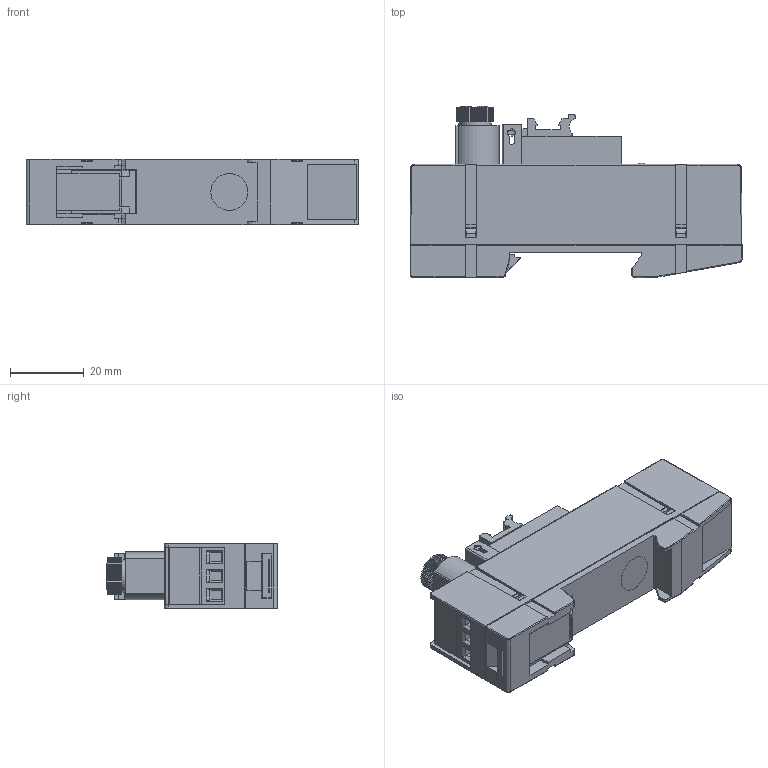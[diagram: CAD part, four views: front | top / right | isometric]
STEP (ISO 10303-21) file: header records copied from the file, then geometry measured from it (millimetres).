
FILE_DESCRIPTION(/* description */ (''),/* implementation_level */ '2;1');
FILE_NAME(/* name */ 'Multi_IO_Extension_Shutter_592.stp',/* time_stamp */ '2025-10-02T15:00:20+02:00',/* author */ (''),/* organization */ (''),/* preprocessor_version */ 'ST-DEVELOPER v17.2',/* originating_system */ 'Autodesk Inventor 2019',/* authorisation */ '');
FILE_SCHEMA (('AUTOMOTIVE_DESIGN { 1 0 10303 214 3 1 1 }'));
Length unit declared in the file: millimetre
Products named in the file (1): Multi_IO_Extension_Shutter_592
Bounding box: 89.8 x 46.32 x 17.83 mm (x, y, z)
Volume: 45848.9 mm3; surface area: 14146.8 mm2
Topology: 1 solids, 2 shells, 891 faces, 2533 edges, 1661 vertices
Faces by surface type: plane 724, cylinder 145, torus 18, cone 2, bspline 2
Full cylindrical faces by diameter (mm): 3 x2, 4 x1, 4.1 x4, 7.35 x1, 8.7 x1, 10 x1
Entity records: 29652 total; most frequent: CARTESIAN_POINT 5145, ORIENTED_EDGE 5062, DIRECTION 4668, EDGE_CURVE 2531, LINE 2172, VECTOR 2172, VERTEX_POINT 1661, AXIS2_PLACEMENT_3D 1248
